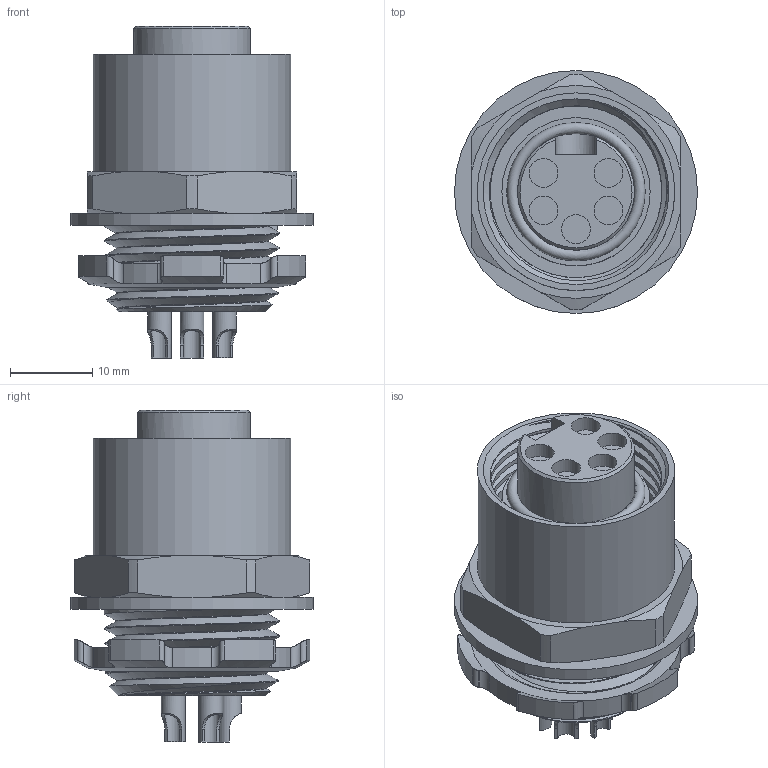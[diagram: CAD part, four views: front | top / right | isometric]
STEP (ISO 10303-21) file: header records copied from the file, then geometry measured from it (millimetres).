
FILE_DESCRIPTION (( 'STEP AP203' ), '1' );
FILE_NAME ('CM03A-PR5S-S-1(R1).STEP', '2022-04-05T09:09:10', ( '' ), ( '' ), 'SwSTEP 2.0', 'SolidWorks 2018', '' );
FILE_SCHEMA (( 'CONFIG_CONTROL_DESIGN' ));
Length unit declared in the file: millimetre
Products named in the file (1): CM03A-PR5S-S-1(R1)
Bounding box: 29.5 x 29.5 x 40.3 mm (x, y, z)
Volume: 13445.9 mm3; surface area: 6565 mm2
Topology: 1 solids, 1 shells, 178 faces, 455 edges, 291 vertices
Faces by surface type: cylinder 74, plane 55, cone 36, bspline 12, torus 1
Full cylindrical faces by diameter (mm): 2.1 x5, 2.9 x5, 3.5 x5, 14.2 x1, 18 x1, 20.86 x4, 24 x1, 29.5 x1
Entity records: 10908 total; most frequent: CARTESIAN_POINT 7111, ORIENTED_EDGE 792, DIRECTION 684, EDGE_CURVE 396, AXIS2_PLACEMENT_3D 279, VERTEX_POINT 266, EDGE_LOOP 218, FACE_OUTER_BOUND 194
